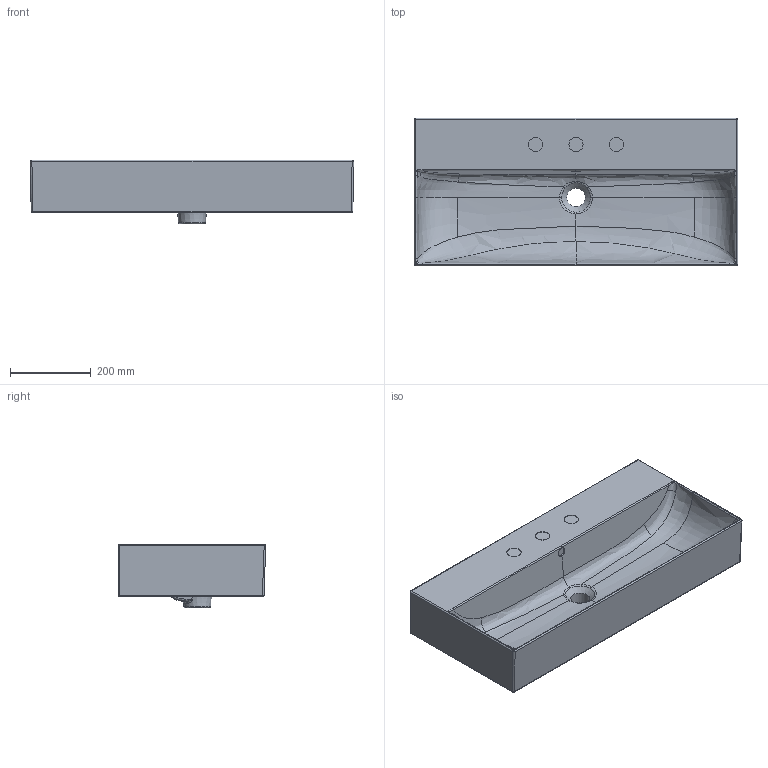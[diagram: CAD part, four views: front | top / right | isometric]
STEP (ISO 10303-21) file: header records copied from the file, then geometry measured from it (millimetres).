
FILE_DESCRIPTION(/* description */ (''),/* implementation_level */ '2;1');
FILE_NAME(/* name */ 'LAVABO_80X36.5_PROTAP_01_20200828.stp',/* time_stamp */ '2020-10-08T13:35:11+02:00',/* author */ (''),/* organization */ (''),/* preprocessor_version */ 'ST-DEVELOPER v16.7',/* originating_system */ 'SIEMENS PLM Software NX 12.0',/* authorisation */ '');
FILE_SCHEMA (('AUTOMOTIVE_DESIGN { 1 0 10303 214 3 1 1 1 }'));
Products named in the file (1): Bera5A889F5Dvfrt
Bounding box: 799.89 x 364.89 x 158.02 mm (x, y, z)
Volume: 12640077 mm3; surface area: 1152828.4 mm2
Topology: 1 solids, 1 shells, 450 faces, 1095 edges, 645 vertices
Faces by surface type: bspline 265, cylinder 97, plane 45, torus 28, sphere 12, cone 3
Full cylindrical faces by diameter (mm): 10 x6, 22 x1, 35 x3, 46 x1, 50 x3
Entity records: 43066 total; most frequent: CARTESIAN_POINT 34612, ORIENTED_EDGE 2076, DIRECTION 1215, EDGE_CURVE 1038, VERTEX_POINT 633, B_SPLINE_CURVE_WITH_KNOTS 541, AXIS2_PLACEMENT_3D 532, EDGE_LOOP 499
